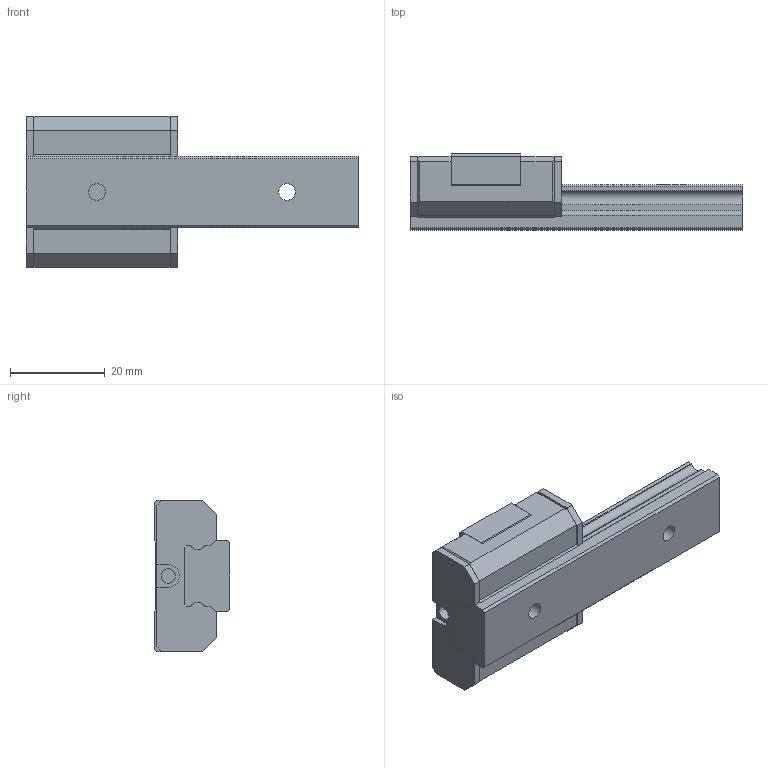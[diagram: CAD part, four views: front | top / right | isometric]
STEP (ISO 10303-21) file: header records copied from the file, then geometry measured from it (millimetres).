
FILE_DESCRIPTION(/* description */ ('STEP AP203'),/* implementation_level */ '2;1');
FILE_NAME(/* name */ 'SRS15SSS-70LM_G15_0_Without_grease_nipple_0_0_0_0_1',/* time_stamp */ '2024-05-17T09:13:07+02:00',/* author */ ('License CC BY-ND 4.0'),/* organization */ ('CADENAS'),/* preprocessor_version */ 'ST-DEVELOPER v19.3',/* originating_system */ 'PARTsolutions',/* authorisation */ ' ');
FILE_SCHEMA (('CONFIG_CONTROL_DESIGN'));
Length unit declared in the file: millimetre
Products named in the file (3): SRS15SSS-70LM_G15_0_Without_grease_nipple_0_0_0_0_1; SRS15S7015 Track; SRS15SSS1 Slider
Assembly tree (2 placements, depth 2):
  SRS15SSS-70LM_G15_0_Without_grease_nipple_0_0_0_0_1
    SRS15S7015 Track
    SRS15SSS1 Slider
Bounding box: 70 x 16 x 32 mm (x, y, z)
Volume: 18227.3 mm3; surface area: 7852.1 mm2
Topology: 2 solids, 2 shells, 128 faces, 342 edges, 222 vertices
Faces by surface type: plane 100, cylinder 24, cone 4
Full cylindrical faces by diameter (mm): 2.459 x2, 3 x2, 3.5 x2, 6 x2
Entity records: 3927 total; most frequent: CARTESIAN_POINT 677, ORIENTED_EDGE 652, DIRECTION 638, EDGE_CURVE 326, LINE 276, VECTOR 276, VERTEX_POINT 220, AXIS2_PLACEMENT_3D 181
